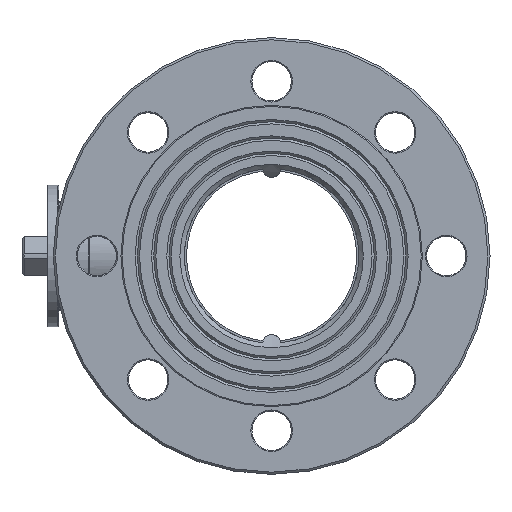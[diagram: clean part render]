
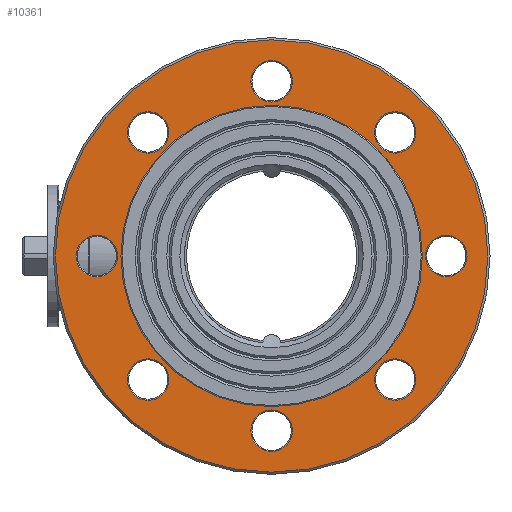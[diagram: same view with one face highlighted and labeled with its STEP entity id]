
A CAD part, left-side view. The second image highlights one B-rep face of the part: STEP entity #10361.
In plain terms, the highlighted planar face has unit normal (-1, 0, 0) as drawn and (0, 0, 1) by its records, which use the part's own axes.
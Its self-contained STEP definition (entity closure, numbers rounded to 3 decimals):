
#1000=CIRCLE('',#11403,9.5);
#1001=CIRCLE('',#11405,99.);
#1002=CIRCLE('',#11406,9.5);
#1003=CIRCLE('',#11407,9.5);
#1004=CIRCLE('',#11408,9.5);
#1005=CIRCLE('',#11409,9.5);
#1006=CIRCLE('',#11410,54.5);
#1007=CIRCLE('',#11411,9.5);
#1008=CIRCLE('',#11412,9.5);
#1009=CIRCLE('',#11413,9.5);
#1666=FACE_BOUND('',#3191,.T.);
#1667=FACE_BOUND('',#3192,.T.);
#1668=FACE_BOUND('',#3193,.T.);
#1669=FACE_BOUND('',#3194,.T.);
#1670=FACE_BOUND('',#3195,.T.);
#1671=FACE_BOUND('',#3196,.T.);
#1672=FACE_BOUND('',#3197,.T.);
#1673=FACE_BOUND('',#3198,.T.);
#1674=FACE_BOUND('',#3199,.T.);
#2341=FACE_OUTER_BOUND('',#3190,.T.);
#3190=EDGE_LOOP('',(#9434));
#3191=EDGE_LOOP('',(#9435));
#3192=EDGE_LOOP('',(#9436));
#3193=EDGE_LOOP('',(#9437));
#3194=EDGE_LOOP('',(#9438));
#3195=EDGE_LOOP('',(#9439));
#3196=EDGE_LOOP('',(#9440));
#3197=EDGE_LOOP('',(#9441));
#3198=EDGE_LOOP('',(#9442));
#3199=EDGE_LOOP('',(#9443));
#5249=VERTEX_POINT('',#20832);
#5250=VERTEX_POINT('',#20835);
#5251=VERTEX_POINT('',#20837);
#5252=VERTEX_POINT('',#20839);
#5253=VERTEX_POINT('',#20841);
#5254=VERTEX_POINT('',#20843);
#5255=VERTEX_POINT('',#20845);
#5256=VERTEX_POINT('',#20847);
#5257=VERTEX_POINT('',#20849);
#5258=VERTEX_POINT('',#20851);
#6657=EDGE_CURVE('',#5249,#5249,#1000,.T.);
#6658=EDGE_CURVE('',#5250,#5250,#1001,.T.);
#6659=EDGE_CURVE('',#5251,#5251,#1002,.T.);
#6660=EDGE_CURVE('',#5252,#5252,#1003,.T.);
#6661=EDGE_CURVE('',#5253,#5253,#1004,.T.);
#6662=EDGE_CURVE('',#5254,#5254,#1005,.T.);
#6663=EDGE_CURVE('',#5255,#5255,#1006,.T.);
#6664=EDGE_CURVE('',#5256,#5256,#1007,.T.);
#6665=EDGE_CURVE('',#5257,#5257,#1008,.T.);
#6666=EDGE_CURVE('',#5258,#5258,#1009,.T.);
#9434=ORIENTED_EDGE('',*,*,#6658,.F.);
#9435=ORIENTED_EDGE('',*,*,#6659,.F.);
#9436=ORIENTED_EDGE('',*,*,#6660,.F.);
#9437=ORIENTED_EDGE('',*,*,#6661,.F.);
#9438=ORIENTED_EDGE('',*,*,#6662,.F.);
#9439=ORIENTED_EDGE('',*,*,#6663,.F.);
#9440=ORIENTED_EDGE('',*,*,#6664,.F.);
#9441=ORIENTED_EDGE('',*,*,#6665,.F.);
#9442=ORIENTED_EDGE('',*,*,#6666,.F.);
#9443=ORIENTED_EDGE('',*,*,#6657,.F.);
#9731=PLANE('',#11404);
#10361=ADVANCED_FACE('',(#2341,#1666,#1667,#1668,#1669,#1670,#1671,#1672,
#1673,#1674),#9731,.F.);
#11403=AXIS2_PLACEMENT_3D('',#20833,#14014,#14015);
#11404=AXIS2_PLACEMENT_3D('',#20834,#14016,#14017);
#11405=AXIS2_PLACEMENT_3D('',#20836,#14018,#14019);
#11406=AXIS2_PLACEMENT_3D('',#20838,#14020,#14021);
#11407=AXIS2_PLACEMENT_3D('',#20840,#14022,#14023);
#11408=AXIS2_PLACEMENT_3D('',#20842,#14024,#14025);
#11409=AXIS2_PLACEMENT_3D('',#20844,#14026,#14027);
#11410=AXIS2_PLACEMENT_3D('',#20846,#14028,#14029);
#11411=AXIS2_PLACEMENT_3D('',#20848,#14030,#14031);
#11412=AXIS2_PLACEMENT_3D('',#20850,#14032,#14033);
#11413=AXIS2_PLACEMENT_3D('',#20852,#14034,#14035);
#14014=DIRECTION('center_axis',(0.,0.,1.));
#14015=DIRECTION('ref_axis',(1.,0.,0.));
#14016=DIRECTION('center_axis',(0.,0.,-1.));
#14017=DIRECTION('ref_axis',(-1.,0.,0.));
#14018=DIRECTION('center_axis',(0.,0.,-1.));
#14019=DIRECTION('ref_axis',(-1.,0.,0.));
#14020=DIRECTION('center_axis',(0.,0.,1.));
#14021=DIRECTION('ref_axis',(1.,0.,0.));
#14022=DIRECTION('center_axis',(0.,0.,1.));
#14023=DIRECTION('ref_axis',(1.,0.,0.));
#14024=DIRECTION('center_axis',(0.,0.,1.));
#14025=DIRECTION('ref_axis',(1.,0.,0.));
#14026=DIRECTION('center_axis',(0.,0.,1.));
#14027=DIRECTION('ref_axis',(1.,0.,0.));
#14028=DIRECTION('center_axis',(0.,0.,1.));
#14029=DIRECTION('ref_axis',(-1.,0.,0.));
#14030=DIRECTION('center_axis',(0.,0.,1.));
#14031=DIRECTION('ref_axis',(1.,0.,0.));
#14032=DIRECTION('center_axis',(0.,0.,1.));
#14033=DIRECTION('ref_axis',(1.,0.,0.));
#14034=DIRECTION('center_axis',(0.,0.,1.));
#14035=DIRECTION('ref_axis',(1.,0.,0.));
#20832=CARTESIAN_POINT('',(-89.5,0.,19.));
#20833=CARTESIAN_POINT('Origin',(-80.,0.,19.));
#20834=CARTESIAN_POINT('Origin',(0.,0.,19.));
#20835=CARTESIAN_POINT('',(99.,0.,19.));
#20836=CARTESIAN_POINT('Origin',(0.,0.,19.));
#20837=CARTESIAN_POINT('',(-66.069,-56.569,19.));
#20838=CARTESIAN_POINT('Origin',(-56.569,-56.569,19.));
#20839=CARTESIAN_POINT('',(-9.5,-80.,19.));
#20840=CARTESIAN_POINT('Origin',(0.,-80.,19.));
#20841=CARTESIAN_POINT('',(47.069,-56.569,19.));
#20842=CARTESIAN_POINT('Origin',(56.569,-56.569,19.));
#20843=CARTESIAN_POINT('',(70.5,0.,19.));
#20844=CARTESIAN_POINT('Origin',(80.,0.,19.));
#20845=CARTESIAN_POINT('',(54.5,0.,19.));
#20846=CARTESIAN_POINT('Origin',(0.,0.,19.));
#20847=CARTESIAN_POINT('',(47.069,56.569,19.));
#20848=CARTESIAN_POINT('Origin',(56.569,56.569,19.));
#20849=CARTESIAN_POINT('',(-9.5,80.,19.));
#20850=CARTESIAN_POINT('Origin',(0.,80.,19.));
#20851=CARTESIAN_POINT('',(-66.069,56.569,19.));
#20852=CARTESIAN_POINT('Origin',(-56.569,56.569,19.));
